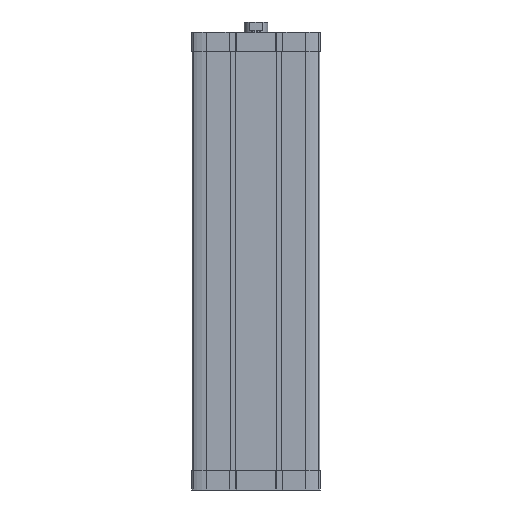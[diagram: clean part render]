
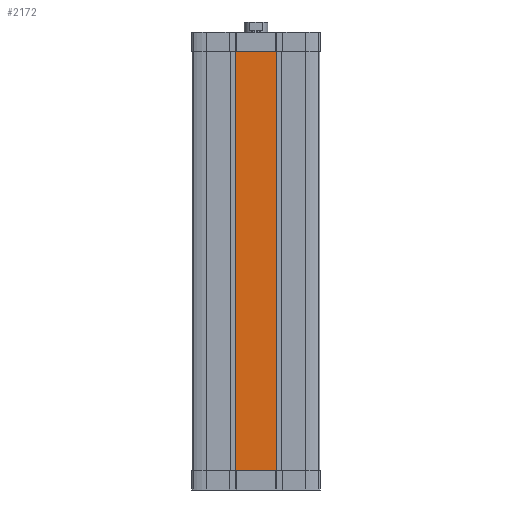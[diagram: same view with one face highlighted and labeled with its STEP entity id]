
A CAD part, front view. The second image highlights one B-rep face of the part: STEP entity #2172.
In plain terms, the highlighted planar face has unit normal (0, -1, 0).
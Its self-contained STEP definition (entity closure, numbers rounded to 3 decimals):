
#195 = DIRECTION ( 'NONE',  ( 0., 0., 1. ) ) ;
#269 = DIRECTION ( 'NONE',  ( 1., 0., 0. ) ) ;
#481 = EDGE_CURVE ( 'NONE', #12828, #7083, #793, .T. ) ;
#696 = CARTESIAN_POINT ( 'NONE',  ( -21.3, -67., -461. ) ) ;
#793 = LINE ( 'NONE', #696, #14161 ) ;
#825 = CARTESIAN_POINT ( 'NONE',  ( -67., -67., -461. ) ) ;
#934 = ORIENTED_EDGE ( 'NONE', *, *, #6607, .F. ) ;
#1159 = ORIENTED_EDGE ( 'NONE', *, *, #14818, .F. ) ;
#1380 = DIRECTION ( 'NONE',  ( 1., 0., 0. ) ) ;
#1456 = EDGE_CURVE ( 'NONE', #14497, #9332, #5598, .T. ) ;
#1528 = EDGE_CURVE ( 'NONE', #7083, #2200, #4376, .T. ) ;
#2078 = ORIENTED_EDGE ( 'NONE', *, *, #1456, .F. ) ;
#2172 = ADVANCED_FACE ( 'NONE', ( #15927 ), #5505, .T. ) ;
#2200 = VERTEX_POINT ( 'NONE', #8635 ) ;
#2462 = VECTOR ( 'NONE', #195, 1000. ) ;
#2646 = CARTESIAN_POINT ( 'NONE',  ( -21.3, -67., -20. ) ) ;
#2829 = ORIENTED_EDGE ( 'NONE', *, *, #481, .T. ) ;
#3871 = CARTESIAN_POINT ( 'NONE',  ( 21.3, -67., -461. ) ) ;
#3874 = CARTESIAN_POINT ( 'NONE',  ( 21.3, -67., -20. ) ) ;
#4201 = DIRECTION ( 'NONE',  ( 0., 0., -1. ) ) ;
#4376 = LINE ( 'NONE', #13503, #16633 ) ;
#4663 = DIRECTION ( 'NONE',  ( 1., 0., 0. ) ) ;
#5174 = ORIENTED_EDGE ( 'NONE', *, *, #10682, .T. ) ;
#5505 = PLANE ( 'NONE',  #6544 ) ;
#5598 = LINE ( 'NONE', #12294, #2462 ) ;
#5662 = CARTESIAN_POINT ( 'NONE',  ( -21.3, -67., -461. ) ) ;
#5691 = ORIENTED_EDGE ( 'NONE', *, *, #16538, .F. ) ;
#6028 = CARTESIAN_POINT ( 'NONE',  ( -67., -67., -20. ) ) ;
#6136 = CARTESIAN_POINT ( 'NONE',  ( 20.687, -67., -20. ) ) ;
#6544 = AXIS2_PLACEMENT_3D ( 'NONE', #10821, #16115, #4201 ) ;
#6607 = EDGE_CURVE ( 'NONE', #9332, #14464, #13657, .T. ) ;
#6608 = CARTESIAN_POINT ( 'NONE',  ( -21.3, -67., -20. ) ) ;
#6699 = ORIENTED_EDGE ( 'NONE', *, *, #6984, .T. ) ;
#6984 = EDGE_CURVE ( 'NONE', #14497, #12828, #16403, .T. ) ;
#7083 = VERTEX_POINT ( 'NONE', #15772 ) ;
#7127 = VECTOR ( 'NONE', #269, 1000. ) ;
#7128 = VECTOR ( 'NONE', #1380, 1000. ) ;
#8635 = CARTESIAN_POINT ( 'NONE',  ( 21.3, -67., -461. ) ) ;
#8947 = VECTOR ( 'NONE', #4663, 1000. ) ;
#9142 = LINE ( 'NONE', #6608, #7128 ) ;
#9185 = LINE ( 'NONE', #3871, #16098 ) ;
#9332 = VERTEX_POINT ( 'NONE', #2646 ) ;
#9501 = VERTEX_POINT ( 'NONE', #6136 ) ;
#9689 = DIRECTION ( 'NONE',  ( 1., 0., 0. ) ) ;
#9834 = ORIENTED_EDGE ( 'NONE', *, *, #1528, .T. ) ;
#10682 = EDGE_CURVE ( 'NONE', #2200, #13983, #9185, .T. ) ;
#10725 = VECTOR ( 'NONE', #12378, 1000. ) ;
#10821 = CARTESIAN_POINT ( 'NONE',  ( -67., -67., -461. ) ) ;
#11057 = EDGE_LOOP ( 'NONE', ( #2078, #6699, #2829, #9834, #5174, #5691, #1159, #934 ) ) ;
#11238 = DIRECTION ( 'NONE',  ( 1., 0., 0. ) ) ;
#12190 = CARTESIAN_POINT ( 'NONE',  ( -67., -67., -20. ) ) ;
#12294 = CARTESIAN_POINT ( 'NONE',  ( -21.3, -67., -461. ) ) ;
#12378 = DIRECTION ( 'NONE',  ( 1., 0., 0. ) ) ;
#12828 = VERTEX_POINT ( 'NONE', #14736 ) ;
#12985 = CARTESIAN_POINT ( 'NONE',  ( -20.687, -67., -20. ) ) ;
#13503 = CARTESIAN_POINT ( 'NONE',  ( -67., -67., -461. ) ) ;
#13657 = LINE ( 'NONE', #12190, #7127 ) ;
#13948 = LINE ( 'NONE', #6028, #10725 ) ;
#13983 = VERTEX_POINT ( 'NONE', #3874 ) ;
#14161 = VECTOR ( 'NONE', #11238, 1000. ) ;
#14464 = VERTEX_POINT ( 'NONE', #12985 ) ;
#14475 = DIRECTION ( 'NONE',  ( 0., 0., 1. ) ) ;
#14497 = VERTEX_POINT ( 'NONE', #5662 ) ;
#14736 = CARTESIAN_POINT ( 'NONE',  ( -20.687, -67., -461. ) ) ;
#14818 = EDGE_CURVE ( 'NONE', #14464, #9501, #9142, .T. ) ;
#15772 = CARTESIAN_POINT ( 'NONE',  ( 20.687, -67., -461. ) ) ;
#15927 = FACE_OUTER_BOUND ( 'NONE', #11057, .T. ) ;
#16098 = VECTOR ( 'NONE', #14475, 1000. ) ;
#16115 = DIRECTION ( 'NONE',  ( 0., -1., 0. ) ) ;
#16403 = LINE ( 'NONE', #825, #8947 ) ;
#16538 = EDGE_CURVE ( 'NONE', #9501, #13983, #13948, .T. ) ;
#16633 = VECTOR ( 'NONE', #9689, 1000. ) ;
